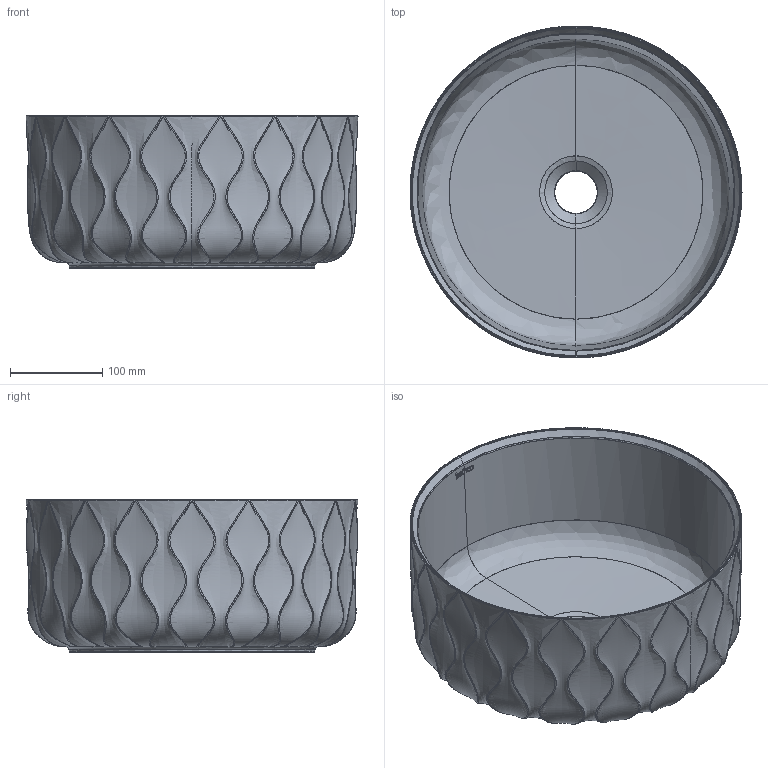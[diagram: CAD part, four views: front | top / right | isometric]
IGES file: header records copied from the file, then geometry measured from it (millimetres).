
Global section: file name: C:\Users\User\Desktop\4170_SandWaves.igs; native system: Rhinoceros ( May  7 2021 ); preprocessor: Trout Lake IGES 012 May  7 2021; date: 231113.095920; units: millimetre
Bounding box: 359.64 x 359.64 x 165 mm (x, y, z)
Surface area: 498268.9 mm2 (no closed solid volume)
Topology: 0 solids, 0 shells, 190 faces, 1681 edges, 1660 vertices
Faces by surface type: bspline 190
